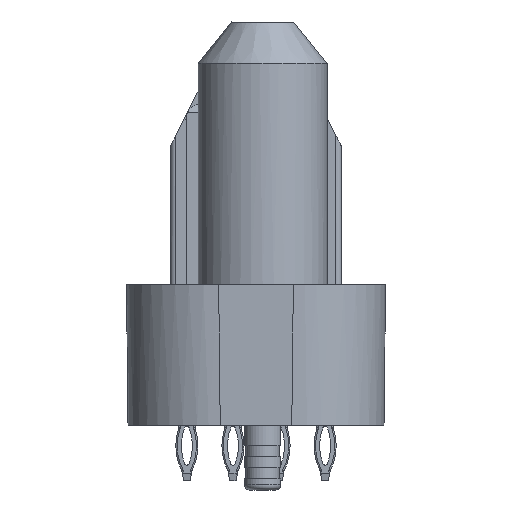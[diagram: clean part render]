
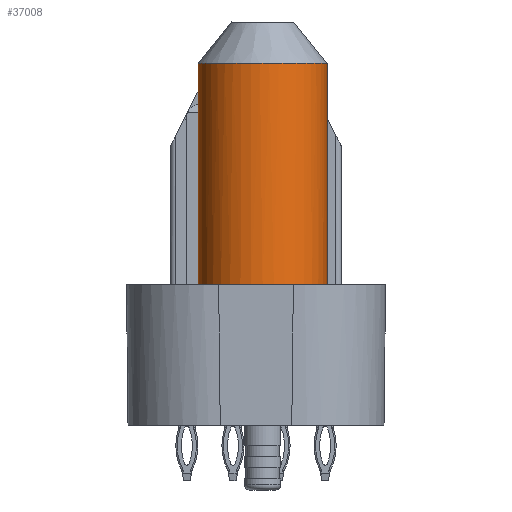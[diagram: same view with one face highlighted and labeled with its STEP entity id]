
A CAD part, left-side view. The second image highlights one B-rep face of the part: STEP entity #37008.
In plain terms, the highlighted cylindrical face has radius 3.5 mm (diameter 7 mm), a partial arc.
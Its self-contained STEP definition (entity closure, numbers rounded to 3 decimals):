
#28643=CYLINDRICAL_SURFACE('',#108364,3.5);
#32733=FACE_OUTER_BOUND('',#44367,.T.);
#37008=ADVANCED_FACE('',(#32733),#28643,.T.);
#39485=B_SPLINE_CURVE_WITH_KNOTS('',3,(#156382,#156383,#156384,#156385,
#156386,#156387,#156388,#156389,#156390,#156391),.UNSPECIFIED.,.F.,.F.,
(4,2,2,2,4),(0.,0.25,0.5,0.75,1.),.UNSPECIFIED.);
#44367=EDGE_LOOP('',(#70897,#70898,#70899,#70900));
#49238=CIRCLE('',#108363,3.5);
#70897=ORIENTED_EDGE('',*,*,#88543,.F.);
#70898=ORIENTED_EDGE('',*,*,#88544,.T.);
#70899=ORIENTED_EDGE('',*,*,#88545,.F.);
#70900=ORIENTED_EDGE('',*,*,#88546,.T.);
#77675=VERTEX_POINT('',#156380);
#77676=VERTEX_POINT('',#156381);
#77677=VERTEX_POINT('',#156392);
#77678=VERTEX_POINT('',#156394);
#88543=EDGE_CURVE('',#77675,#77676,#93597,.T.);
#88544=EDGE_CURVE('',#77675,#77677,#39485,.T.);
#88545=EDGE_CURVE('',#77678,#77677,#93598,.T.);
#88546=EDGE_CURVE('',#77678,#77676,#49238,.T.);
#93597=LINE('',#156379,#98664);
#93598=LINE('',#156393,#98665);
#98664=VECTOR('',#132742,1.);
#98665=VECTOR('',#132743,1.);
#108363=AXIS2_PLACEMENT_3D('',#156395,#132744,#132745);
#108364=AXIS2_PLACEMENT_3D('',#156396,#132746,#132747);
#132742=DIRECTION('',(0.,0.,-1.));
#132743=DIRECTION('',(0.,0.,1.));
#132744=DIRECTION('',(0.,0.,1.));
#132745=DIRECTION('',(0.,-1.,0.));
#132746=DIRECTION('',(0.,0.,1.));
#132747=DIRECTION('',(1.,0.,0.));
#156379=CARTESIAN_POINT('',(-31.45,-3.855,19.38));
#156380=CARTESIAN_POINT('',(-31.45,-3.855,19.63));
#156381=CARTESIAN_POINT('',(-31.45,-3.855,7.63));
#156382=CARTESIAN_POINT('',(-31.45,-3.855,19.63));
#156383=CARTESIAN_POINT('',(-32.366,-3.855,19.63));
#156384=CARTESIAN_POINT('',(-33.277,-3.478,19.63));
#156385=CARTESIAN_POINT('',(-34.573,-2.182,19.63));
#156386=CARTESIAN_POINT('',(-34.95,-1.271,19.63));
#156387=CARTESIAN_POINT('',(-34.95,0.561,19.63));
#156388=CARTESIAN_POINT('',(-34.573,1.472,19.63));
#156389=CARTESIAN_POINT('',(-33.277,2.768,19.63));
#156390=CARTESIAN_POINT('',(-32.366,3.145,19.63));
#156391=CARTESIAN_POINT('',(-31.45,3.145,19.63));
#156392=CARTESIAN_POINT('',(-31.45,3.145,19.63));
#156393=CARTESIAN_POINT('',(-31.45,3.145,7.63));
#156394=CARTESIAN_POINT('',(-31.45,3.145,7.63));
#156395=CARTESIAN_POINT('',(-31.45,-0.355,7.63));
#156396=CARTESIAN_POINT('',(-31.45,-0.355,7.63));
